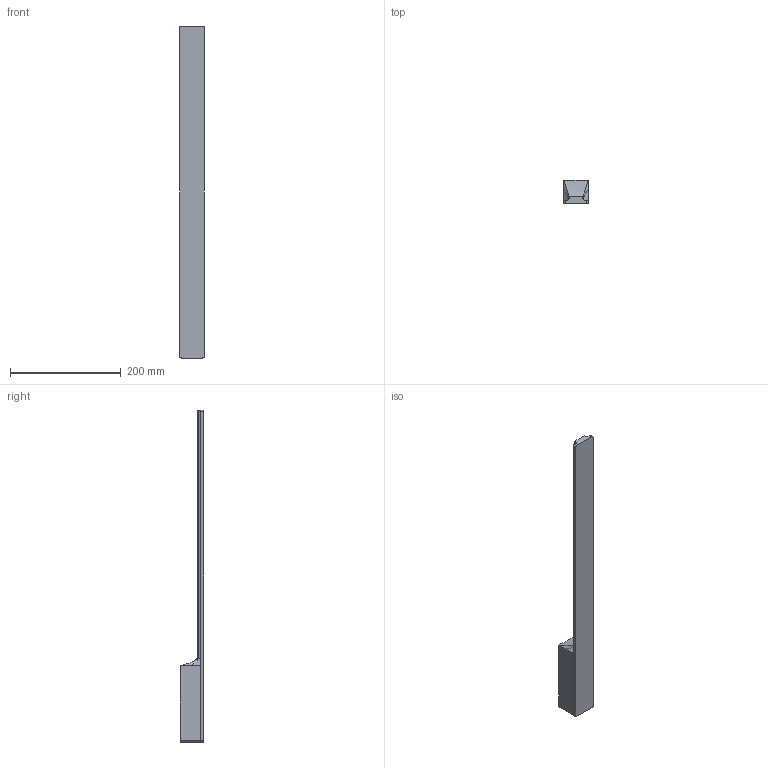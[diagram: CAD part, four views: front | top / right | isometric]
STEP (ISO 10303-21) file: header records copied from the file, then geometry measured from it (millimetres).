
FILE_DESCRIPTION(/* description */ (''),/* implementation_level */ '2;1');
FILE_NAME(/* name */ '71800_3d',/* time_stamp */ '2026-06-03T12:18:50+02:00',/* author */ (''),/* organization */ (''),/* preprocessor_version */ 'ST-DEVELOPER v19.2',/* originating_system */ 'Rhino 8.30',/* authorisation */ '');
FILE_SCHEMA (('CONFIG_CONTROL_DESIGN'));
Length unit declared in the file: millimetre
Products named in the file (1): Document
Bounding box: 44.5 x 43 x 600 mm (x, y, z)
Volume: 52381.7 mm3; surface area: 186947.8 mm2
Topology: 3 solids, 9 shells, 523 faces, 1604 edges, 1103 vertices
Faces by surface type: cylinder 235, plane 219, bspline 69
Entity records: 20579 total; most frequent: CARTESIAN_POINT 8725, ORIENTED_EDGE 3000, EDGE_CURVE 1604, B_SPLINE_CURVE_WITH_KNOTS 1200, DIRECTION 1162, VERTEX_POINT 1103, AXIS2_PLACEMENT_3D 808, EDGE_LOOP 586
